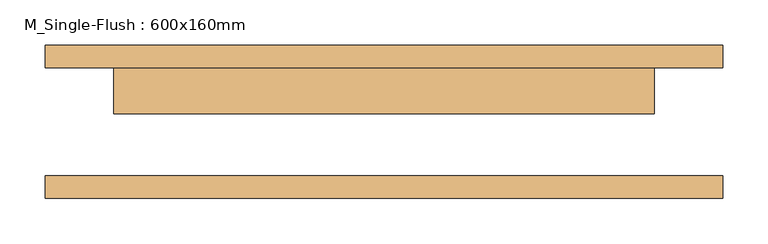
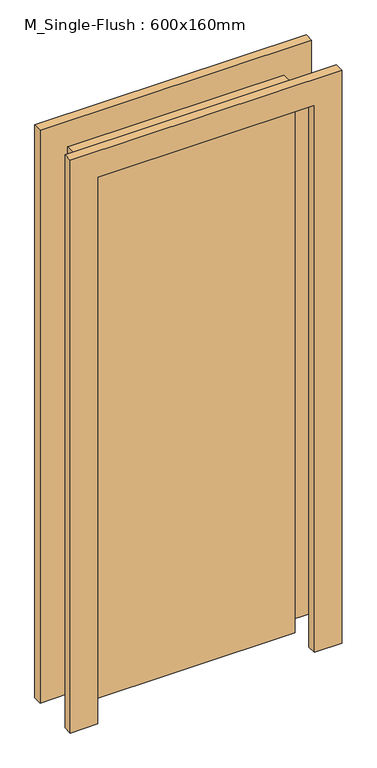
"""IFC4 building model written with IfcOpenShell, lengths in millimetres: door geometry, M_Single-Flush : 600x160mm."""

from ifc_helpers import new_model, si_unit, frame, origin, origin_with_axes, place, context, project, spatial, polyline, outline, extrude, source, transform, mapped, element, save


def m_single_flush_600x160mm_2bf126cd(model_context):
    return source(origin(), model_context, "Body", "SweptSolid", [
        extrude(outline(polyline([(300.0, 9.0), (-300.0, 9.0), (-300.0, 60.0), (300.0, 60.0), (300.0, 9.0)])), origin_with_axes(), (0.0, 0.0, 1.0), 1600.0),
        extrude(outline(polyline([(1676.0, -376.0), (0.0, -376.0), (0.0, -300.0), (1600.0, -300.0), (1600.0, 300.0), (0.0, 300.0), (0.0, 376.0), (1676.0, 376.0), (1676.0, -376.0)])), frame((0.0, 60.0, 0.0), z_axis=(0.0, 1.0, 0.0), x_axis=(0.0, 0.0, 1.0)), (0.0, 0.0, 1.0), 25.0),
        extrude(outline(polyline([(1676.0, 376.0), (1676.0, -376.0), (0.0, -376.0), (0.0, -300.0), (1600.0, -300.0), (1600.0, 300.0), (0.0, 300.0), (0.0, 376.0), (1676.0, 376.0)])), frame((0.0, -85.0, 0.0), z_axis=(0.0, 1.0, 0.0), x_axis=(0.0, 0.0, 1.0)), (0.0, 0.0, 1.0), 25.0),
    ])


if __name__ == "__main__":
    model = new_model("IFC4")
    model_context = context("Model", 3, world=origin())
    ifc_project = project(units=[si_unit("LENGTHUNIT", "METRE", prefix="MILLI")], contexts=[model_context])
    site = spatial("IfcSite", under=ifc_project)
    building = spatial("IfcBuilding", under=site)
    placement = place(None, origin())
    m_single_flush_600x160mm_shape = m_single_flush_600x160mm_2bf126cd(model_context)
    element("IfcDoor", 1, ObjectType="M_Single-Flush : 600x160mm", at=placement, inside=building, context=model_context, shape_type="MappedRepresentation", body=[
        mapped(m_single_flush_600x160mm_shape, transform((0.0, 0.0, 0.0), x_axis=(1.0, 0.0, 0.0), y_axis=(0.0, 1.0, 0.0), z_axis=(0.0, 0.0, 1.0))),
    ])
    save(model, "model.ifc")
